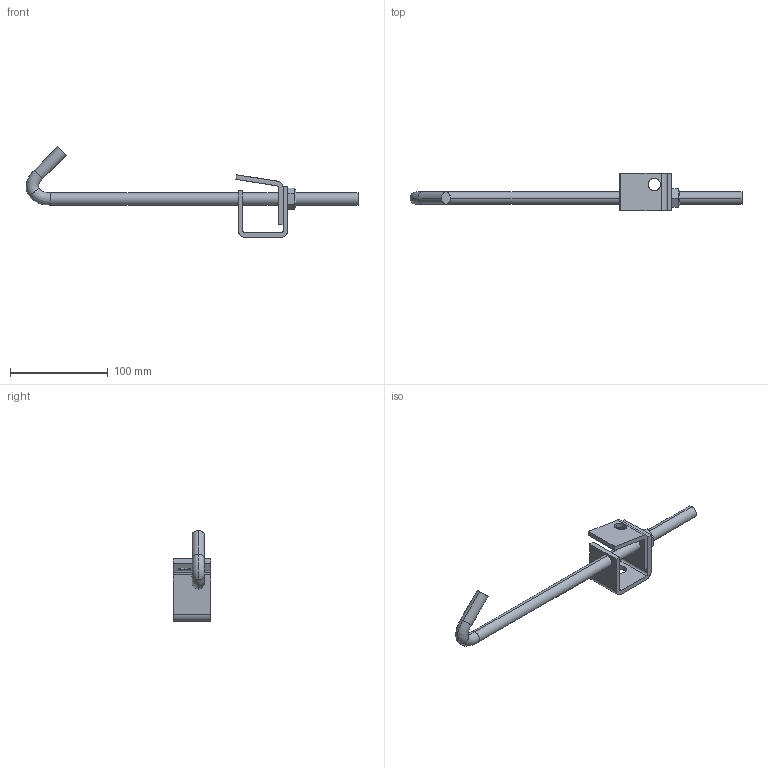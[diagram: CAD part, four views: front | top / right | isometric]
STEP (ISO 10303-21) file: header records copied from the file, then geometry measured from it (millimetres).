
FILE_DESCRIPTION(('TurboCAD Mac Pro'),'Build 980');
FILE_NAME('P2824-12.stp',' ',(''),(''),'ACIS Interop','IMSI','TurboCAD Mac Pro BY IMSI, INCORPORATED');
FILE_SCHEMA(('automotive_design'));
Length unit declared in the file: inch
Products named in the file (3): 1; 2; 3
Bounding box: 340.33 x 38.1 x 93.08 mm (x, y, z)
Volume: 88214.8 mm3; surface area: 35741.6 mm2
Topology: 3 solids, 3 shells, 66 faces, 169 edges, 108 vertices
Faces by surface type: plane 34, bspline 22, cylinder 10
Entity records: 4098 total; most frequent: CARTESIAN_POINT 1400, ORIENTED_EDGE 330, DIRECTION 239, STYLED_ITEM 196, PRESENTATION_STYLE_ASSIGNMENT 196, COLOUR_RGB 196, EDGE_CURVE 165, CURVE_STYLE 127
